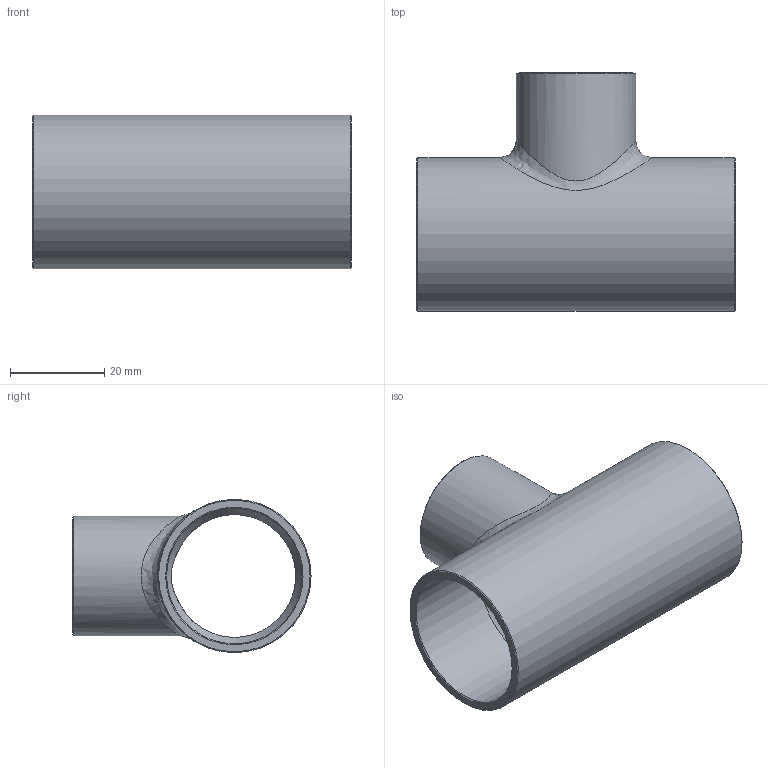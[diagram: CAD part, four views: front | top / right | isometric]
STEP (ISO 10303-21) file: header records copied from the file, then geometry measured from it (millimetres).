
FILE_DESCRIPTION((''),'2;1');
FILE_NAME('G:\SANHA-Ternat\Technik\Management\Bouwmaten + markeringen\z-maattekeningen 3D\29000s\2913011878118_3d.stp','2017-08-01T11:56:00',('vdvijverd'),(''),'Autodesk Inventor 2009','Autodesk Inventor 2009','');
FILE_SCHEMA(('AUTOMOTIVE_DESIGN { 1 0 10303 214 1 1 1 1 }'));
Length unit declared in the file: millimetre
Products named in the file (1): 2913011878118_3d
Bounding box: 67.4 x 50.45 x 32.5 mm (x, y, z)
Volume: 16602.2 mm3; surface area: 15487.1 mm2
Topology: 1 solids, 1 shells, 22 faces, 54 edges, 33 vertices
Faces by surface type: cone 8, cylinder 7, bspline 4, plane 3
Full cylindrical faces by diameter (mm): 22.375 x1, 25.4 x1, 28.725 x1, 32.5 x1
Entity records: 2170 total; most frequent: CARTESIAN_POINT 1739, DIRECTION 80, ORIENTED_EDGE 66, AXIS2_PLACEMENT_3D 40, EDGE_LOOP 40, EDGE_CURVE 33, VERTEX_POINT 27, FACE_OUTER_BOUND 22
